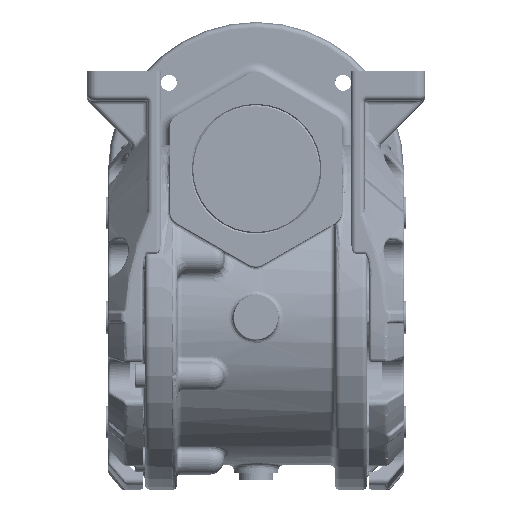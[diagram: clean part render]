
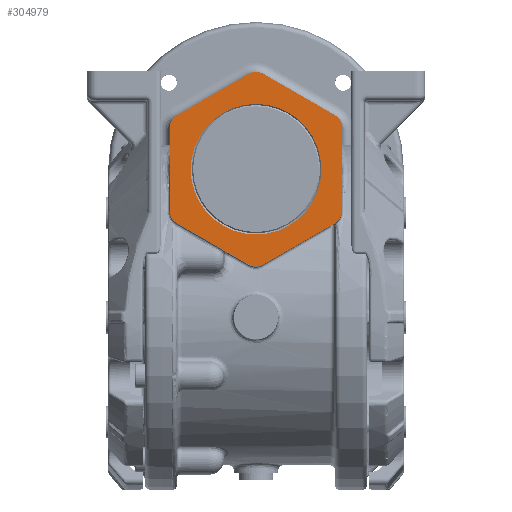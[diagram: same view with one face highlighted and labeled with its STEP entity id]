
A CAD part, top view. The second image highlights one B-rep face of the part: STEP entity #304979.
In plain terms, the highlighted planar face has unit normal (0, 0, 1).
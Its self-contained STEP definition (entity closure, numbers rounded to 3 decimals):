
#299337 = VERTEX_POINT ( 'NONE', #316674 ) ;
#299343 = EDGE_CURVE ( 'NONE', #299347, #299337, #316663, .T. ) ;
#299347 = VERTEX_POINT ( 'NONE', #316654 ) ;
#304796 = EDGE_CURVE ( 'NONE', #304798, #304841, #349604, .T. ) ;
#304798 = VERTEX_POINT ( 'NONE', #349594 ) ;
#304841 = VERTEX_POINT ( 'NONE', #349716 ) ;
#304936 = VERTEX_POINT ( 'NONE', #350140 ) ;
#304938 = ORIENTED_EDGE ( 'NONE', *, *, #304940, .T. ) ;
#304940 = EDGE_CURVE ( 'NONE', #304936, #304943, #350134, .T. ) ;
#304943 = VERTEX_POINT ( 'NONE', #350125 ) ;
#304945 = ORIENTED_EDGE ( 'NONE', *, *, #304946, .T. ) ;
#304946 = EDGE_CURVE ( 'NONE', #304943, #304994, #350119, .T. ) ;
#304954 = ORIENTED_EDGE ( 'NONE', *, *, #304955, .T. ) ;
#304955 = EDGE_CURVE ( 'NONE', #305003, #304956, #350084, .T. ) ;
#304956 = VERTEX_POINT ( 'NONE', #350077 ) ;
#304957 = ORIENTED_EDGE ( 'NONE', *, *, #304958, .T. ) ;
#304958 = EDGE_CURVE ( 'NONE', #304956, #304960, #350073, .T. ) ;
#304960 = VERTEX_POINT ( 'NONE', #350214 ) ;
#304962 = ORIENTED_EDGE ( 'NONE', *, *, #304964, .T. ) ;
#304964 = EDGE_CURVE ( 'NONE', #304960, #304798, #350211, .T. ) ;
#304967 = ORIENTED_EDGE ( 'NONE', *, *, #304796, .T. ) ;
#304969 = ORIENTED_EDGE ( 'NONE', *, *, #304970, .T. ) ;
#304970 = EDGE_CURVE ( 'NONE', #304841, #304971, #350199, .T. ) ;
#304971 = VERTEX_POINT ( 'NONE', #350189 ) ;
#304972 = ORIENTED_EDGE ( 'NONE', *, *, #305076, .T. ) ;
#304973 = VERTEX_POINT ( 'NONE', #350187 ) ;
#304979 = ADVANCED_FACE ( 'NONE', ( #350174, #350173 ), #350168, .T. ) ;
#304980 = EDGE_LOOP ( 'NONE', ( #304983, #304986 ) ) ;
#304983 = ORIENTED_EDGE ( 'NONE', *, *, #299343, .T. ) ;
#304986 = ORIENTED_EDGE ( 'NONE', *, *, #304988, .T. ) ;
#304988 = EDGE_CURVE ( 'NONE', #299337, #299347, #350157, .T. ) ;
#304989 = EDGE_LOOP ( 'NONE', ( #304990, #304997, #304954, #304957, #304962, #304967, #304969, #304972, #305077, #305081, #304938, #304945 ) ) ;
#304990 = ORIENTED_EDGE ( 'NONE', *, *, #304991, .T. ) ;
#304991 = EDGE_CURVE ( 'NONE', #304994, #304995, #350146, .T. ) ;
#304994 = VERTEX_POINT ( 'NONE', #350286 ) ;
#304995 = VERTEX_POINT ( 'NONE', #350284 ) ;
#304997 = ORIENTED_EDGE ( 'NONE', *, *, #305000, .T. ) ;
#305000 = EDGE_CURVE ( 'NONE', #304995, #305003, #350278, .T. ) ;
#305003 = VERTEX_POINT ( 'NONE', #350272 ) ;
#305076 = EDGE_CURVE ( 'NONE', #304971, #304973, #350410, .T. ) ;
#305077 = ORIENTED_EDGE ( 'NONE', *, *, #305078, .T. ) ;
#305078 = EDGE_CURVE ( 'NONE', #304973, #305079, #350399, .T. ) ;
#305079 = VERTEX_POINT ( 'NONE', #350389 ) ;
#305081 = ORIENTED_EDGE ( 'NONE', *, *, #305082, .T. ) ;
#305082 = EDGE_CURVE ( 'NONE', #305079, #304936, #350384, .T. ) ;
#316654 = CARTESIAN_POINT ( 'NONE',  ( 26.5, 0., 75. ) ) ;
#316656 = DIRECTION ( 'NONE',  ( 1., 0., 0. ) ) ;
#316658 = DIRECTION ( 'NONE',  ( 0., 0., -1. ) ) ;
#316660 = CARTESIAN_POINT ( 'NONE',  ( 0., 0., 75. ) ) ;
#316661 = AXIS2_PLACEMENT_3D ( 'NONE', #316660, #316658, #316656 ) ;
#316663 = CIRCLE ( 'NONE', #316661, 26.5 ) ;
#316674 = CARTESIAN_POINT ( 'NONE',  ( -26.5, 0., 75. ) ) ;
#349594 = CARTESIAN_POINT ( 'NONE',  ( 3., -38.682, 75. ) ) ;
#349599 = DIRECTION ( 'NONE',  ( 0.866, 0.5, 0. ) ) ;
#349600 = VECTOR ( 'NONE', #349599, 1000. ) ;
#349602 = CARTESIAN_POINT ( 'NONE',  ( 3., -38.682, 75. ) ) ;
#349604 = LINE ( 'NONE', #349602, #349600 ) ;
#349716 = CARTESIAN_POINT ( 'NONE',  ( 32., -21.939, 75. ) ) ;
#350068 = DIRECTION ( 'NONE',  ( 0.866, -0.5, 0. ) ) ;
#350069 = VECTOR ( 'NONE', #350068, 1000. ) ;
#350071 = CARTESIAN_POINT ( 'NONE',  ( -32., -21.939, 75. ) ) ;
#350073 = LINE ( 'NONE', #350071, #350069 ) ;
#350077 = CARTESIAN_POINT ( 'NONE',  ( -32., -21.939, 75. ) ) ;
#350079 = DIRECTION ( 'NONE',  ( 1., 0., 0. ) ) ;
#350081 = DIRECTION ( 'NONE',  ( 0., 0., 1. ) ) ;
#350082 = CARTESIAN_POINT ( 'NONE',  ( -29., -16.743, 75. ) ) ;
#350083 = AXIS2_PLACEMENT_3D ( 'NONE', #350082, #350081, #350079 ) ;
#350084 = CIRCLE ( 'NONE', #350083, 6. ) ;
#350115 = DIRECTION ( 'NONE',  ( -0.866, -0.5, 0. ) ) ;
#350116 = VECTOR ( 'NONE', #350115, 1000. ) ;
#350118 = CARTESIAN_POINT ( 'NONE',  ( -3., 38.682, 75. ) ) ;
#350119 = LINE ( 'NONE', #350118, #350116 ) ;
#350125 = CARTESIAN_POINT ( 'NONE',  ( -3., 38.682, 75. ) ) ;
#350127 = DIRECTION ( 'NONE',  ( -1., 0., 0. ) ) ;
#350129 = DIRECTION ( 'NONE',  ( 0., 0., 1. ) ) ;
#350131 = CARTESIAN_POINT ( 'NONE',  ( 0., 33.486, 75. ) ) ;
#350132 = AXIS2_PLACEMENT_3D ( 'NONE', #350131, #350129, #350127 ) ;
#350134 = CIRCLE ( 'NONE', #350132, 6. ) ;
#350140 = CARTESIAN_POINT ( 'NONE',  ( 3., 38.682, 75. ) ) ;
#350143 = DIRECTION ( 'NONE',  ( 0., 0., 1. ) ) ;
#350144 = CARTESIAN_POINT ( 'NONE',  ( -29., 16.743, 75. ) ) ;
#350145 = AXIS2_PLACEMENT_3D ( 'NONE', #350144, #350143, #350287 ) ;
#350146 = CIRCLE ( 'NONE', #350145, 6. ) ;
#350149 = DIRECTION ( 'NONE',  ( 1., 0., 0. ) ) ;
#350152 = DIRECTION ( 'NONE',  ( 0., 0., -1. ) ) ;
#350154 = CARTESIAN_POINT ( 'NONE',  ( 0., 0., 75. ) ) ;
#350155 = AXIS2_PLACEMENT_3D ( 'NONE', #350154, #350152, #350149 ) ;
#350157 = CIRCLE ( 'NONE', #350155, 26.5 ) ;
#350160 = DIRECTION ( 'NONE',  ( 1., 0., 0. ) ) ;
#350162 = DIRECTION ( 'NONE',  ( 0., 0., 1. ) ) ;
#350164 = CARTESIAN_POINT ( 'NONE',  ( -29., 16.743, 75. ) ) ;
#350166 = AXIS2_PLACEMENT_3D ( 'NONE', #350164, #350162, #350160 ) ;
#350168 = PLANE ( 'NONE',  #350166 ) ;
#350173 = FACE_OUTER_BOUND ( 'NONE', #304989, .T. ) ;
#350174 = FACE_BOUND ( 'NONE', #304980, .T. ) ;
#350187 = CARTESIAN_POINT ( 'NONE',  ( 35., 16.743, 75. ) ) ;
#350189 = CARTESIAN_POINT ( 'NONE',  ( 35., -16.743, 75. ) ) ;
#350192 = DIRECTION ( 'NONE',  ( 1., 0., 0. ) ) ;
#350194 = DIRECTION ( 'NONE',  ( 0., 0., 1. ) ) ;
#350195 = CARTESIAN_POINT ( 'NONE',  ( 29., -16.743, 75. ) ) ;
#350197 = AXIS2_PLACEMENT_3D ( 'NONE', #350195, #350194, #350192 ) ;
#350199 = CIRCLE ( 'NONE', #350197, 6. ) ;
#350205 = DIRECTION ( 'NONE',  ( 1., 0., 0. ) ) ;
#350207 = DIRECTION ( 'NONE',  ( 0., 0., 1. ) ) ;
#350208 = CARTESIAN_POINT ( 'NONE',  ( 0., -33.486, 75. ) ) ;
#350210 = AXIS2_PLACEMENT_3D ( 'NONE', #350208, #350207, #350205 ) ;
#350211 = CIRCLE ( 'NONE', #350210, 6. ) ;
#350214 = CARTESIAN_POINT ( 'NONE',  ( -3., -38.682, 75. ) ) ;
#350272 = CARTESIAN_POINT ( 'NONE',  ( -35., -16.743, 75. ) ) ;
#350275 = DIRECTION ( 'NONE',  ( 0., -1., 0. ) ) ;
#350276 = VECTOR ( 'NONE', #350275, 1000. ) ;
#350277 = CARTESIAN_POINT ( 'NONE',  ( -35., 16.743, 75. ) ) ;
#350278 = LINE ( 'NONE', #350277, #350276 ) ;
#350284 = CARTESIAN_POINT ( 'NONE',  ( -35., 16.743, 75. ) ) ;
#350286 = CARTESIAN_POINT ( 'NONE',  ( -32., 21.939, 75. ) ) ;
#350287 = DIRECTION ( 'NONE',  ( 1., 0., 0. ) ) ;
#350381 = DIRECTION ( 'NONE',  ( -0.866, 0.5, 0. ) ) ;
#350382 = VECTOR ( 'NONE', #350381, 1000. ) ;
#350383 = CARTESIAN_POINT ( 'NONE',  ( 32., 21.939, 75. ) ) ;
#350384 = LINE ( 'NONE', #350383, #350382 ) ;
#350389 = CARTESIAN_POINT ( 'NONE',  ( 32., 21.939, 75. ) ) ;
#350391 = DIRECTION ( 'NONE',  ( 1., 0., 0. ) ) ;
#350393 = DIRECTION ( 'NONE',  ( 0., 0., 1. ) ) ;
#350395 = CARTESIAN_POINT ( 'NONE',  ( 29., 16.743, 75. ) ) ;
#350397 = AXIS2_PLACEMENT_3D ( 'NONE', #350395, #350393, #350391 ) ;
#350399 = CIRCLE ( 'NONE', #350397, 6. ) ;
#350404 = DIRECTION ( 'NONE',  ( 0., 1., 0. ) ) ;
#350406 = VECTOR ( 'NONE', #350404, 1000. ) ;
#350408 = CARTESIAN_POINT ( 'NONE',  ( 35., -16.743, 75. ) ) ;
#350410 = LINE ( 'NONE', #350408, #350406 ) ;
